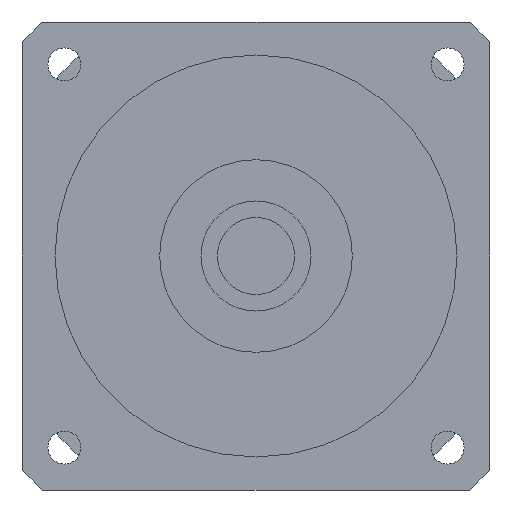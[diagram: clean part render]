
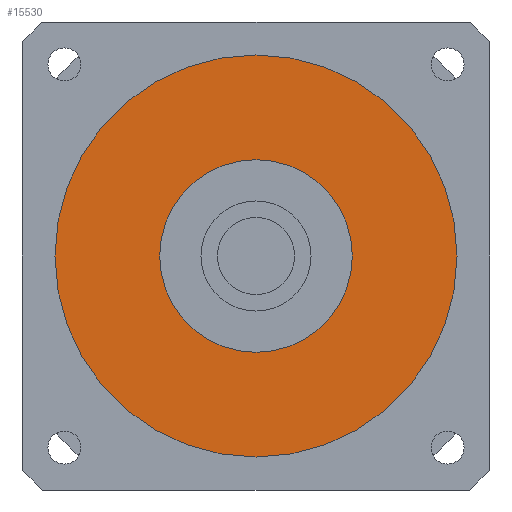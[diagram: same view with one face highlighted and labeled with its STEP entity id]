
A CAD part, left-side view. The second image highlights one B-rep face of the part: STEP entity #15530.
In plain terms, the highlighted planar face has unit normal (-1, 0, 0) as drawn and (0, 0, -1) by its records, which use the part's own axes.
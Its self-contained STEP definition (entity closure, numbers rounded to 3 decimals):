
#15100=CARTESIAN_POINT('',(0.,0.,
-92.5));
#15110=DIRECTION('',(0.,0.,1.));
#15120=DIRECTION('',(-1.,0.,0.));
#15130=AXIS2_PLACEMENT_3D('',#15100,#15110,#15120);
#15140=PLANE('',#15130);
#15150=CARTESIAN_POINT('',(0.,0.,
-92.5));
#15160=DIRECTION('',(0.,0.,1.));
#15170=DIRECTION('',(0.,-1.,0.));
#15180=AXIS2_PLACEMENT_3D('',#15150,#15160,#15170);
#15190=CIRCLE('',#15180,36.51);
#15200=CARTESIAN_POINT('',(0.,-36.51,-92.5));
#15210=VERTEX_POINT('',#15200);
#15220=CARTESIAN_POINT('',(36.51,0.,-92.5));
#15230=VERTEX_POINT('',#15220);
#15240=EDGE_CURVE('',#15210,#15230,#15190,.T.);
#15250=ORIENTED_EDGE('',*,*,#15240,.F.);
#15260=CARTESIAN_POINT('',(-36.51,0.,-92.5));
#15270=VERTEX_POINT('',#15260);
#15280=EDGE_CURVE('',#15230,#15270,#15190,.T.);
#15290=ORIENTED_EDGE('',*,*,#15280,.F.);
#15300=EDGE_CURVE('',#15270,#15210,#15190,.T.);
#15310=ORIENTED_EDGE('',*,*,#15300,.F.);
#15320=EDGE_LOOP('',(#15310,#15290,#15250));
#15330=FACE_OUTER_BOUND('',#15320,.T.);
#15340=CARTESIAN_POINT('',(0.,0.,
-92.5));
#15350=DIRECTION('',(0.,0.,1.));
#15360=DIRECTION('',(0.,-1.,0.));
#15370=AXIS2_PLACEMENT_3D('',#15340,#15350,#15360);
#15380=CIRCLE('',#15370,17.5);
#15390=CARTESIAN_POINT('',(17.5,0.,-92.5));
#15400=VERTEX_POINT('',#15390);
#15410=CARTESIAN_POINT('',(-17.5,0.,-92.5));
#15420=VERTEX_POINT('',#15410);
#15430=EDGE_CURVE('',#15400,#15420,#15380,.T.);
#15440=ORIENTED_EDGE('',*,*,#15430,.T.);
#15450=CARTESIAN_POINT('',(0.,-17.5,-92.5));
#15460=VERTEX_POINT('',#15450);
#15470=EDGE_CURVE('',#15460,#15400,#15380,.T.);
#15480=ORIENTED_EDGE('',*,*,#15470,.T.);
#15490=EDGE_CURVE('',#15420,#15460,#15380,.T.);
#15500=ORIENTED_EDGE('',*,*,#15490,.T.);
#15510=EDGE_LOOP('',(#15500,#15480,#15440));
#15520=FACE_BOUND('',#15510,.T.);
#15530=ADVANCED_FACE('',(#15330,#15520),#15140,.F.);
